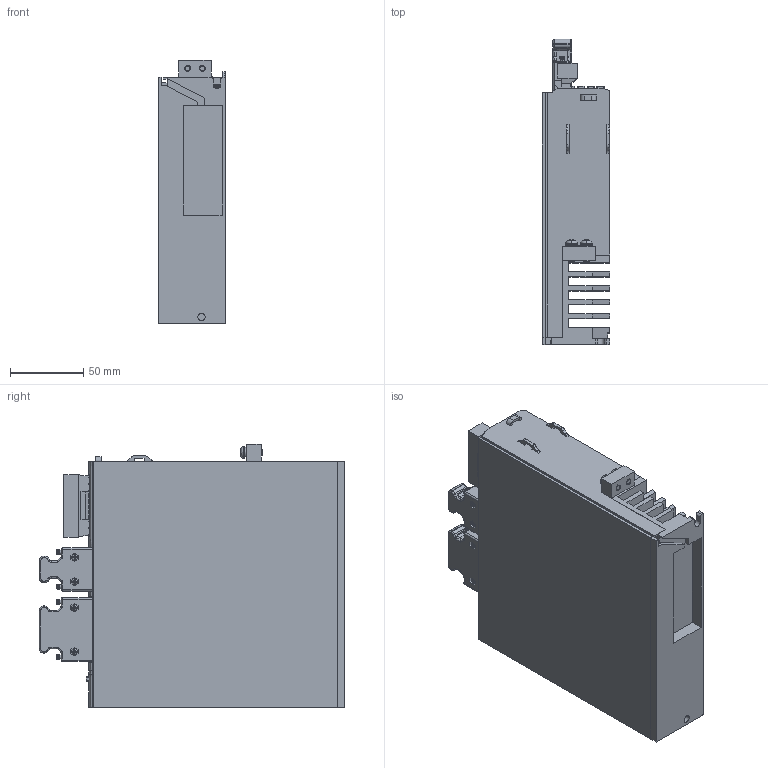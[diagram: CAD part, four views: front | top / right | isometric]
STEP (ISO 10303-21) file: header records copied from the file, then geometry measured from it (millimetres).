
FILE_DESCRIPTION((''),'2;1');
FILE_NAME('1_5KW_ASM','2023-04-23T',('Administrator'),(''),'CREO PARAMETRIC BY PTC INC, 2017480','CREO PARAMETRIC BY PTC INC, 2017480','');
FILE_SCHEMA(('CONFIG_CONTROL_DESIGN'));
Products named in the file (7): 1_5KW; GB9074_4-88-DIANPIAN_M4X12; DB-36_1_1; DB-14_1_1; E-8PIN-TOU; Y00003242-SRQ; 1_5KW_ASM
Assembly tree (7 placements, depth 2):
  1_5KW_ASM
    1_5KW
    GB9074_4-88-DIANPIAN_M4X12  x2
    DB-36_1_1
    DB-14_1_1
    E-8PIN-TOU
    Y00003242-SRQ
Bounding box: 46 x 208.4 x 179.5 mm (x, y, z)
Volume: 1187965 mm3; surface area: 209199.6 mm2
Topology: 7 solids, 7 shells, 2251 faces, 5898 edges, 3861 vertices
Faces by surface type: plane 1735, cylinder 399, torus 46, extrusion 33, revolution 16, sphere 12, cone 6, bspline 4
Entity records: 84171 total; most frequent: CARTESIAN_POINT 13765, ORIENTED_EDGE 11644, DIRECTION 10931, EDGE_CURVE 5822, VECTOR 4717, LINE 4684, PRESENTATION_STYLE_ASSIGNMENT 4628, STYLED_ITEM 4376
